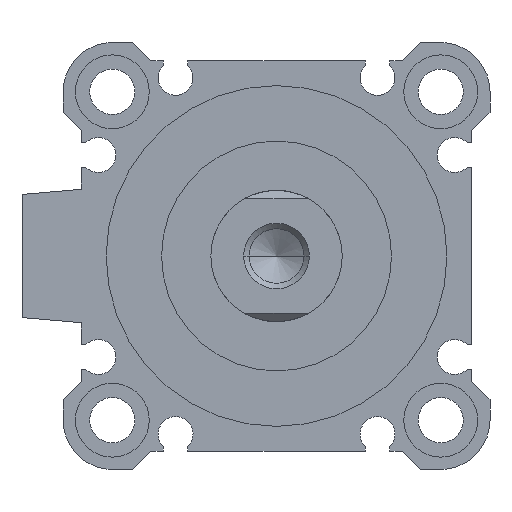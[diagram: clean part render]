
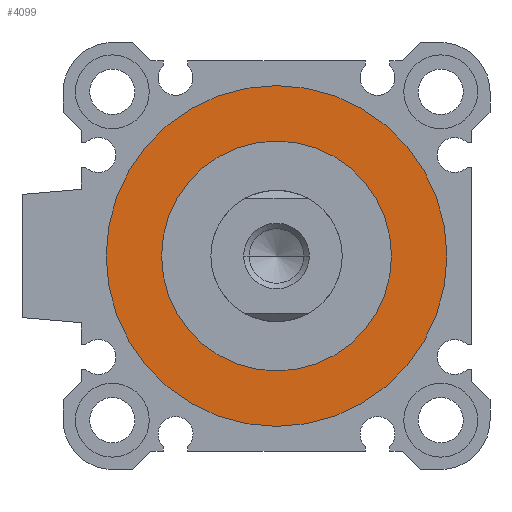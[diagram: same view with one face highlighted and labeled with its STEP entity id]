
A CAD part, left-side view. The second image highlights one B-rep face of the part: STEP entity #4099.
In plain terms, the highlighted planar face has unit normal (-1, 0, 0).
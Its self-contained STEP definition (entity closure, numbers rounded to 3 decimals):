
#91 = DIRECTION ( 'NONE',  ( 1., 0., 0. ) ) ;
#158 = VERTEX_POINT ( 'NONE', #4545 ) ;
#196 = EDGE_LOOP ( 'NONE', ( #3567, #917 ) ) ;
#613 = AXIS2_PLACEMENT_3D ( 'NONE', #3185, #1996, #3969 ) ;
#625 = CARTESIAN_POINT ( 'NONE',  ( 3.3, 0., 0. ) ) ;
#870 = DIRECTION ( 'NONE',  ( 0., 0., -1. ) ) ;
#877 = AXIS2_PLACEMENT_3D ( 'NONE', #2977, #2575, #4879 ) ;
#917 = ORIENTED_EDGE ( 'NONE', *, *, #1819, .F. ) ;
#960 = CIRCLE ( 'NONE', #4029, 14. ) ;
#1231 = VERTEX_POINT ( 'NONE', #1650 ) ;
#1436 = EDGE_LOOP ( 'NONE', ( #3123, #4596 ) ) ;
#1537 = EDGE_CURVE ( 'NONE', #1231, #2712, #2963, .T. ) ;
#1582 = EDGE_CURVE ( 'NONE', #158, #1897, #2231, .T. ) ;
#1650 = CARTESIAN_POINT ( 'NONE',  ( 3.3, 0., 14. ) ) ;
#1706 = CARTESIAN_POINT ( 'NONE',  ( 3.3, 0., 0. ) ) ;
#1819 = EDGE_CURVE ( 'NONE', #1897, #158, #4007, .T. ) ;
#1835 = AXIS2_PLACEMENT_3D ( 'NONE', #625, #2179, #3718 ) ;
#1897 = VERTEX_POINT ( 'NONE', #4194 ) ;
#1996 = DIRECTION ( 'NONE',  ( 1., 0., 0. ) ) ;
#2179 = DIRECTION ( 'NONE',  ( 1., 0., 0. ) ) ;
#2231 = CIRCLE ( 'NONE', #613, 20.75 ) ;
#2264 = PLANE ( 'NONE',  #877 ) ;
#2282 = CARTESIAN_POINT ( 'NONE',  ( 3.3, 0., -14. ) ) ;
#2575 = DIRECTION ( 'NONE',  ( 1., 0., 0. ) ) ;
#2712 = VERTEX_POINT ( 'NONE', #2282 ) ;
#2963 = CIRCLE ( 'NONE', #4410, 14. ) ;
#2977 = CARTESIAN_POINT ( 'NONE',  ( 3.3, 0., 0. ) ) ;
#3002 = FACE_OUTER_BOUND ( 'NONE', #196, .T. ) ;
#3062 = DIRECTION ( 'NONE',  ( 1., 0., 0. ) ) ;
#3086 = CARTESIAN_POINT ( 'NONE',  ( 3.3, 0., 0. ) ) ;
#3123 = ORIENTED_EDGE ( 'NONE', *, *, #1537, .T. ) ;
#3185 = CARTESIAN_POINT ( 'NONE',  ( 3.3, 0., 0. ) ) ;
#3492 = DIRECTION ( 'NONE',  ( 0., 0., -1. ) ) ;
#3567 = ORIENTED_EDGE ( 'NONE', *, *, #1582, .F. ) ;
#3718 = DIRECTION ( 'NONE',  ( 0., 0., -1. ) ) ;
#3933 = EDGE_CURVE ( 'NONE', #2712, #1231, #960, .T. ) ;
#3969 = DIRECTION ( 'NONE',  ( 0., 0., -1. ) ) ;
#4007 = CIRCLE ( 'NONE', #1835, 20.75 ) ;
#4029 = AXIS2_PLACEMENT_3D ( 'NONE', #1706, #91, #870 ) ;
#4099 = ADVANCED_FACE ( 'NONE', ( #3002, #4465 ), #2264, .F. ) ;
#4194 = CARTESIAN_POINT ( 'NONE',  ( 3.3, 0., -20.75 ) ) ;
#4410 = AXIS2_PLACEMENT_3D ( 'NONE', #3086, #3062, #3492 ) ;
#4465 = FACE_BOUND ( 'NONE', #1436, .T. ) ;
#4545 = CARTESIAN_POINT ( 'NONE',  ( 3.3, 0., 20.75 ) ) ;
#4596 = ORIENTED_EDGE ( 'NONE', *, *, #3933, .T. ) ;
#4879 = DIRECTION ( 'NONE',  ( 0., 1., 0. ) ) ;
